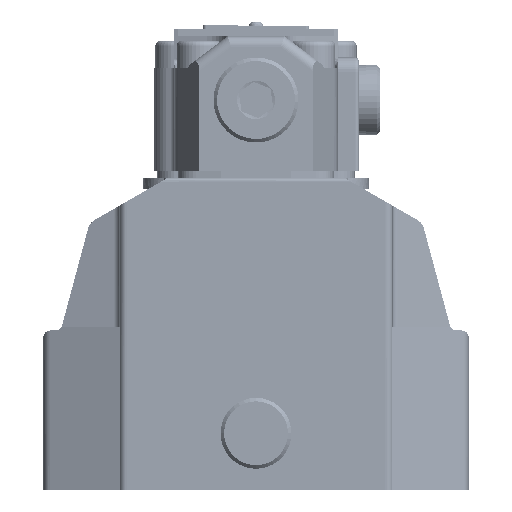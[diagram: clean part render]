
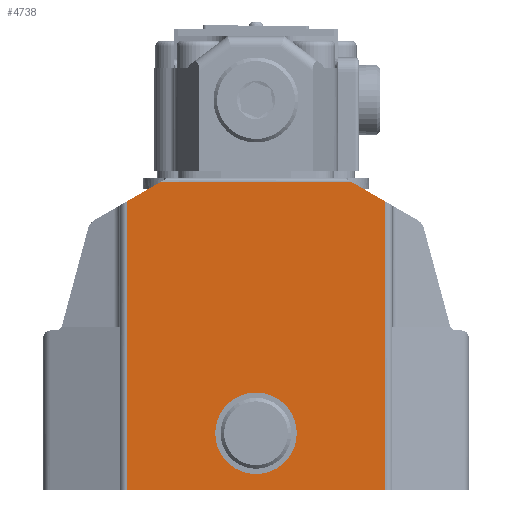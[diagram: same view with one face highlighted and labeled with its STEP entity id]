
A CAD part, left-side view. The second image highlights one B-rep face of the part: STEP entity #4738.
In plain terms, the highlighted planar face has unit normal (-1, 0, 0).
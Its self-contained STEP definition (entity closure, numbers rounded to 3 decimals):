
#1349=PLANE('',#18108);
#2352=LINE('',#66811,#3292);
#2360=LINE('',#66855,#3300);
#2361=LINE('',#66858,#3301);
#2362=LINE('',#66860,#3302);
#2363=LINE('',#66862,#3303);
#2364=LINE('',#66863,#3304);
#3292=VECTOR('',#21240,1.);
#3300=VECTOR('',#21280,1.);
#3301=VECTOR('',#21281,1.);
#3302=VECTOR('',#21282,1.);
#3303=VECTOR('',#21283,1.);
#3304=VECTOR('',#21284,1.);
#3870=FACE_BOUND('',#6659,.T.);
#3871=FACE_BOUND('',#6660,.T.);
#4738=ADVANCED_FACE('',(#3870,#3871),#1349,.F.);
#6659=EDGE_LOOP('',(#11142,#11143,#11144,#11145,#11146,#11147));
#6660=EDGE_LOOP('',(#11148));
#7180=CIRCLE('',#18107,11.5);
#11142=ORIENTED_EDGE('',*,*,#15625,.T.);
#11143=ORIENTED_EDGE('',*,*,#15626,.T.);
#11144=ORIENTED_EDGE('',*,*,#15627,.T.);
#11145=ORIENTED_EDGE('',*,*,#15628,.F.);
#11146=ORIENTED_EDGE('',*,*,#15603,.F.);
#11147=ORIENTED_EDGE('',*,*,#15629,.F.);
#11148=ORIENTED_EDGE('',*,*,#15630,.F.);
#13356=VERTEX_POINT('',#66810);
#13357=VERTEX_POINT('',#66812);
#13377=VERTEX_POINT('',#66856);
#13378=VERTEX_POINT('',#66857);
#13379=VERTEX_POINT('',#66859);
#13380=VERTEX_POINT('',#66861);
#13381=VERTEX_POINT('',#66865);
#15603=EDGE_CURVE('',#13356,#13357,#2352,.T.);
#15625=EDGE_CURVE('',#13377,#13378,#2360,.T.);
#15626=EDGE_CURVE('',#13378,#13379,#2361,.T.);
#15627=EDGE_CURVE('',#13379,#13380,#2362,.T.);
#15628=EDGE_CURVE('',#13357,#13380,#2363,.T.);
#15629=EDGE_CURVE('',#13377,#13356,#2364,.T.);
#15630=EDGE_CURVE('',#13381,#13381,#7180,.T.);
#18107=AXIS2_PLACEMENT_3D('',#66864,#21285,#21286);
#18108=AXIS2_PLACEMENT_3D('',#66866,#21287,#21288);
#21240=DIRECTION('',(0.,1.,0.));
#21280=DIRECTION('',(0.,0.866,0.5));
#21281=DIRECTION('',(0.,1.,0.));
#21282=DIRECTION('',(0.,0.866,-0.5));
#21283=DIRECTION('',(0.,0.,1.));
#21284=DIRECTION('',(0.,0.,-1.));
#21285=DIRECTION('',(-1.,0.,0.));
#21286=DIRECTION('',(0.,0.,1.));
#21287=DIRECTION('',(1.,0.,0.));
#21288=DIRECTION('',(0.,0.,1.));
#66810=CARTESIAN_POINT('',(-742.26,-93.432,0.));
#66811=CARTESIAN_POINT('',(-742.26,-20.432,0.));
#66812=CARTESIAN_POINT('',(-742.26,-20.432,0.));
#66855=CARTESIAN_POINT('',(-742.26,-119.287,66.433));
#66856=CARTESIAN_POINT('',(-742.26,-93.432,81.36));
#66857=CARTESIAN_POINT('',(-742.26,-83.664,87.));
#66858=CARTESIAN_POINT('',(-742.26,-31.932,87.));
#66859=CARTESIAN_POINT('',(-742.26,-30.2,87.));
#66860=CARTESIAN_POINT('',(-742.26,5.423,66.433));
#66861=CARTESIAN_POINT('',(-742.26,-20.432,81.36));
#66862=CARTESIAN_POINT('',(-742.26,-20.432,0.));
#66863=CARTESIAN_POINT('',(-742.26,-93.432,0.));
#66864=CARTESIAN_POINT('',(-742.26,-56.932,16.));
#66865=CARTESIAN_POINT('',(-742.26,-56.932,27.5));
#66866=CARTESIAN_POINT('',(-742.26,-80.932,0.));
